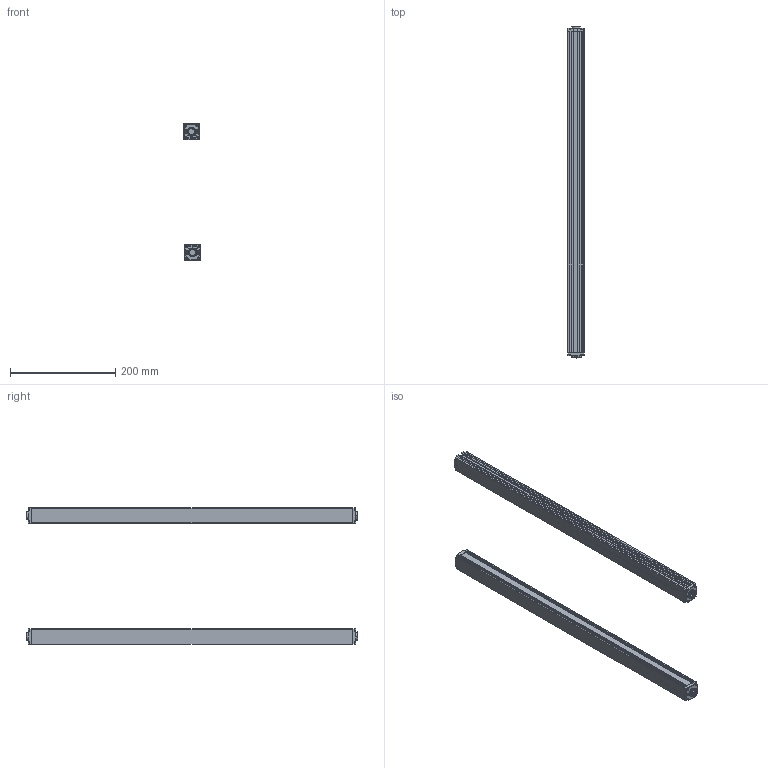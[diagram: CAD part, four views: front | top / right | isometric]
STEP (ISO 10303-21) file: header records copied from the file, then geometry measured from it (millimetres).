
FILE_DESCRIPTION (( 'STEP AP203' ), '1' );
FILE_NAME ('ZDA3020-610.STEP', '2022-08-30T07:34:03', ( 'Windows 蚚誧' ), ( 'Organization' ), 'SwSTEP 2.0', 'SolidWorks 2020', '' );
FILE_SCHEMA (( 'CONFIG_CONTROL_DESIGN' ));
Length unit declared in the file: millimetre
Products named in the file (5): 錨璃1; 錨璃8; 錨璃10; 錨璃8 - 萵掛 (2); ZDA3020-610
Assembly tree (8 placements, depth 2):
  ZDA3020-610
    錨璃1  x2
    錨璃8  x2
    錨璃8 - 萵掛 (2)  x2
    錨璃10  x2
Bounding box: 32.36 x 631.4 x 260.35 mm (x, y, z)
Volume: 391678.5 mm3; surface area: 415547.6 mm2
Topology: 8 solids, 8 shells, 1032 faces, 2690 edges, 1668 vertices
Faces by surface type: plane 464, cylinder 310, cone 120, bspline 58, torus 48, sphere 32
Entity records: 17901 total; most frequent: CARTESIAN_POINT 4731, ORIENTED_EDGE 2666, DIRECTION 2616, EDGE_CURVE 1333, AXIS2_PLACEMENT_3D 894, VERTEX_POINT 834, LINE 828, VECTOR 828
